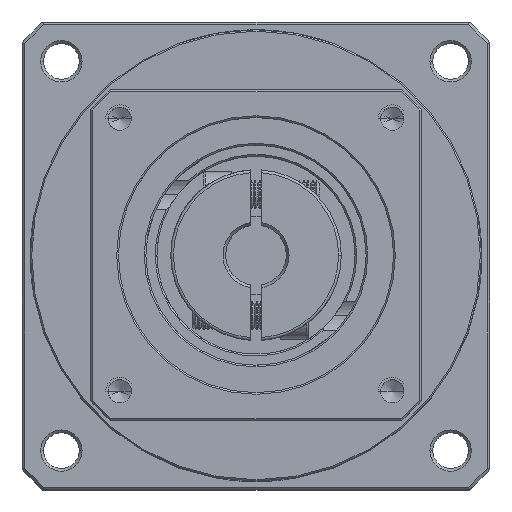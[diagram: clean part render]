
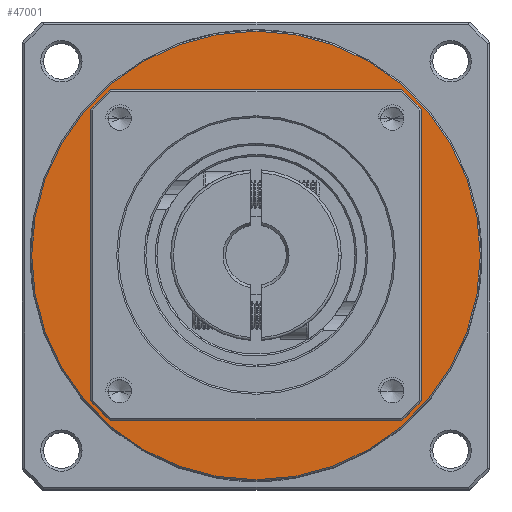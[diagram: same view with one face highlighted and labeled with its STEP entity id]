
A CAD part, top view. The second image highlights one B-rep face of the part: STEP entity #47001.
In plain terms, the highlighted planar face has unit normal (0, 0, 1).
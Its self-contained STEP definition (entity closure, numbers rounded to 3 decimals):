
#309 = DIRECTION ( 'NONE',  ( 1., 0., 0. ) ) ;
#5673 = FACE_OUTER_BOUND ( 'NONE', #116148, .T. ) ;
#7349 = CIRCLE ( 'NONE', #37439, 30. ) ;
#15724 = DIRECTION ( 'NONE',  ( 0., 0., 1. ) ) ;
#16906 = CIRCLE ( 'NONE', #115535, 40.75 ) ;
#21823 = CARTESIAN_POINT ( 'NONE',  ( -112.27, 46.613, -42.081 ) ) ;
#26075 = DIRECTION ( 'NONE',  ( 1., 0., 0. ) ) ;
#30764 = EDGE_CURVE ( 'NONE', #38248, #109371, #109796, .T. ) ;
#33859 = DIRECTION ( 'NONE',  ( 1., 0., 0. ) ) ;
#34469 = EDGE_CURVE ( 'NONE', #129053, #93536, #103042, .T. ) ;
#36565 = CARTESIAN_POINT ( 'NONE',  ( -71.52, 46.613, -42.081 ) ) ;
#37439 = AXIS2_PLACEMENT_3D ( 'NONE', #87180, #118294, #26075 ) ;
#38248 = VERTEX_POINT ( 'NONE', #120810 ) ;
#38699 = ORIENTED_EDGE ( 'NONE', *, *, #128310, .T. ) ;
#39278 = PLANE ( 'NONE',  #47601 ) ;
#47001 = ADVANCED_FACE ( 'NONE', ( #101269, #5673 ), #39278, .T. ) ;
#47601 = AXIS2_PLACEMENT_3D ( 'NONE', #69212, #109279, #90121 ) ;
#63520 = AXIS2_PLACEMENT_3D ( 'NONE', #36565, #15724, #107906 ) ;
#69212 = CARTESIAN_POINT ( 'NONE',  ( -71.52, 46.613, -42.081 ) ) ;
#77915 = ORIENTED_EDGE ( 'NONE', *, *, #88756, .F. ) ;
#86306 = ORIENTED_EDGE ( 'NONE', *, *, #34469, .F. ) ;
#86453 = CARTESIAN_POINT ( 'NONE',  ( -41.52, 46.613, -42.081 ) ) ;
#87180 = CARTESIAN_POINT ( 'NONE',  ( -71.52, 46.613, -42.081 ) ) ;
#88756 = EDGE_CURVE ( 'NONE', #93536, #129053, #7349, .T. ) ;
#90121 = DIRECTION ( 'NONE',  ( 1., 0., 0. ) ) ;
#93536 = VERTEX_POINT ( 'NONE', #115855 ) ;
#100748 = AXIS2_PLACEMENT_3D ( 'NONE', #106076, #114500, #33859 ) ;
#101269 = FACE_BOUND ( 'NONE', #105345, .T. ) ;
#101386 = CARTESIAN_POINT ( 'NONE',  ( -71.52, 46.613, -42.081 ) ) ;
#103042 = CIRCLE ( 'NONE', #100748, 30. ) ;
#105345 = EDGE_LOOP ( 'NONE', ( #77915, #86306 ) ) ;
#106076 = CARTESIAN_POINT ( 'NONE',  ( -71.52, 46.613, -42.081 ) ) ;
#107906 = DIRECTION ( 'NONE',  ( 1., 0., 0. ) ) ;
#109279 = DIRECTION ( 'NONE',  ( 0., 0., 1. ) ) ;
#109371 = VERTEX_POINT ( 'NONE', #21823 ) ;
#109796 = CIRCLE ( 'NONE', #63520, 40.75 ) ;
#114500 = DIRECTION ( 'NONE',  ( 0., 0., 1. ) ) ;
#115535 = AXIS2_PLACEMENT_3D ( 'NONE', #101386, #122297, #309 ) ;
#115855 = CARTESIAN_POINT ( 'NONE',  ( -101.52, 46.613, -42.081 ) ) ;
#116148 = EDGE_LOOP ( 'NONE', ( #38699, #129298 ) ) ;
#118294 = DIRECTION ( 'NONE',  ( 0., 0., 1. ) ) ;
#120810 = CARTESIAN_POINT ( 'NONE',  ( -30.77, 46.613, -42.081 ) ) ;
#122297 = DIRECTION ( 'NONE',  ( 0., 0., 1. ) ) ;
#128310 = EDGE_CURVE ( 'NONE', #109371, #38248, #16906, .T. ) ;
#129053 = VERTEX_POINT ( 'NONE', #86453 ) ;
#129298 = ORIENTED_EDGE ( 'NONE', *, *, #30764, .T. ) ;
